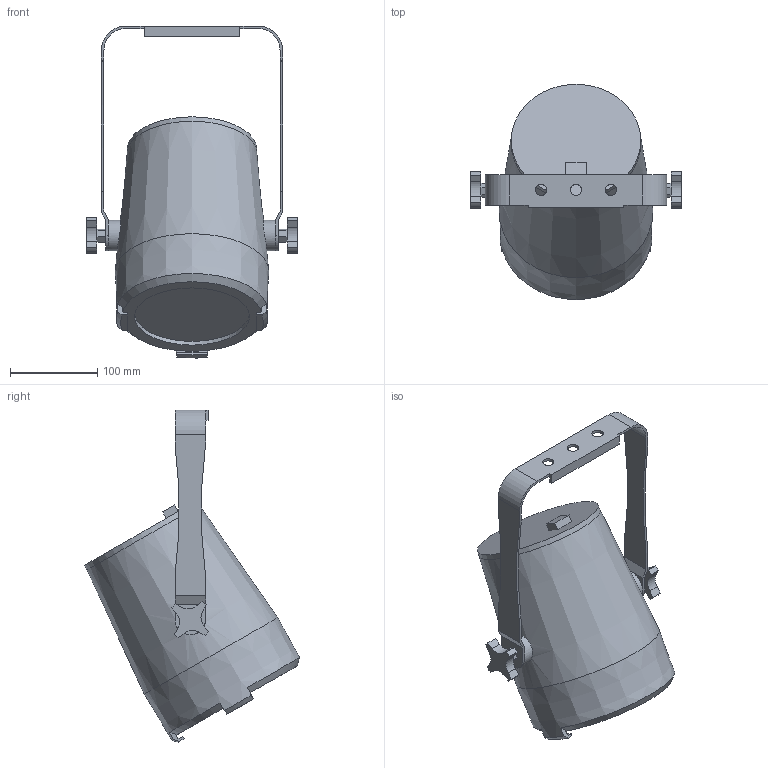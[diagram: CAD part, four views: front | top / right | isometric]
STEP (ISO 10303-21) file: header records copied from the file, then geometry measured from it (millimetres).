
FILE_DESCRIPTION(/* description */ (''),/* implementation_level */ '2;1');
FILE_NAME(/* name */ 'D:/dgooch/Documents/CADENG/PRO/COLORado 1 Solo/30/3D/COLORado 1 Solo_30.step',/* time_stamp */ '2019-09-11T11:05:06-04:00',/* author */ (''),/* organization */ (''),/* preprocessor_version */ 'ST-DEVELOPER v18',/* originating_system */ 'Autodesk Translation Framework v8.6.0.1094',/* authorisation */ '');
FILE_SCHEMA (('AUTOMOTIVE_DESIGN { 1 0 10303 214 3 1 1 }'));
Length unit declared in the file: millimetre
Products named in the file (3): COLORado 1 Solo; Bracket; Main
Assembly tree (2 placements, depth 2):
  COLORado 1 Solo
    Bracket
    Main
Bounding box: 241.96 x 246.83 x 380.9 mm (x, y, z)
Volume: 4831478.5 mm3; surface area: 231875.4 mm2
Topology: 2 solids, 2 shells, 136 faces, 379 edges, 255 vertices
Faces by surface type: plane 89, cylinder 38, cone 9
Full cylindrical faces by diameter (mm): 8 x2, 13 x3, 35 x2, 132 x1
Entity records: 4623 total; most frequent: CARTESIAN_POINT 983, ORIENTED_EDGE 758, DIRECTION 732, EDGE_CURVE 379, VERTEX_POINT 255, LINE 252, VECTOR 252, AXIS2_PLACEMENT_3D 240
